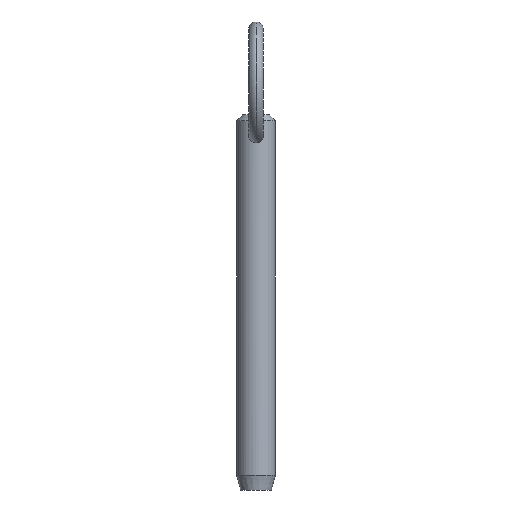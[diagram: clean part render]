
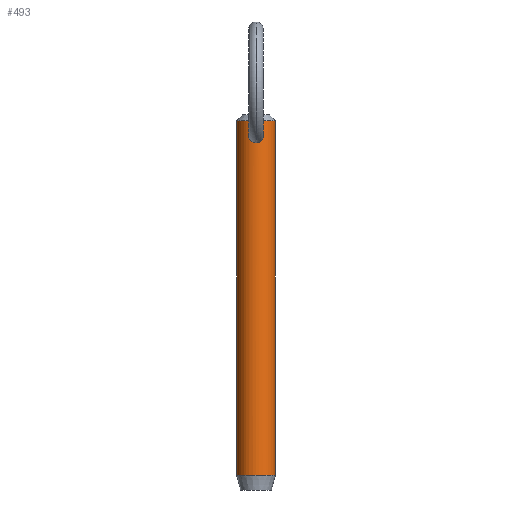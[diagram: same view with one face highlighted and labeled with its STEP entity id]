
A CAD part, front view. The second image highlights one B-rep face of the part: STEP entity #493.
In plain terms, the highlighted cylindrical face has radius 3.965 mm (diameter 7.93 mm), a partial arc.
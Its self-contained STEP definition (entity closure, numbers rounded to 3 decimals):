
#2 = CARTESIAN_POINT ( 'NONE',  ( -3.965, 0., 66.15 ) ) ;
#4 = DIRECTION ( 'NONE',  ( 0., 0., -1. ) ) ;
#15 = EDGE_CURVE ( 'NONE', #290, #384, #385, .T. ) ;
#21 = CARTESIAN_POINT ( 'NONE',  ( -1.379, -3.718, 62.503 ) ) ;
#24 = CARTESIAN_POINT ( 'NONE',  ( 1.346, -3.73, 62.408 ) ) ;
#27 = CARTESIAN_POINT ( 'NONE',  ( 0.693, -3.905, 61.79 ) ) ;
#32 = CARTESIAN_POINT ( 'NONE',  ( 1.434, -3.697, 63.605 ) ) ;
#33 = ORIENTED_EDGE ( 'NONE', *, *, #213, .F. ) ;
#48 = CARTESIAN_POINT ( 'NONE',  ( 0., -3.965, 64.847 ) ) ;
#53 = CARTESIAN_POINT ( 'NONE',  ( -1.508, -3.667, 62.997 ) ) ;
#61 = CARTESIAN_POINT ( 'NONE',  ( 0.404, -3.946, 64.782 ) ) ;
#77 = CARTESIAN_POINT ( 'NONE',  ( -3.965, 0., 61. ) ) ;
#92 = CARTESIAN_POINT ( 'NONE',  ( -1.441, -3.695, 63.608 ) ) ;
#96 = EDGE_LOOP ( 'NONE', ( #491, #208 ) ) ;
#97 = CARTESIAN_POINT ( 'NONE',  ( -0.206, -3.961, 64.834 ) ) ;
#99 = EDGE_CURVE ( 'NONE', #384, #494, #489, .T. ) ;
#100 = FACE_OUTER_BOUND ( 'NONE', #124, .T. ) ;
#102 = CARTESIAN_POINT ( 'NONE',  ( -1.186, -3.786, 64.16 ) ) ;
#108 = CARTESIAN_POINT ( 'NONE',  ( 3.965, 0., 66.15 ) ) ;
#109 = CARTESIAN_POINT ( 'NONE',  ( 1.404, -3.708, 63.701 ) ) ;
#110 = CARTESIAN_POINT ( 'NONE',  ( 1.493, -3.673, 63.304 ) ) ;
#119 = ORIENTED_EDGE ( 'NONE', *, *, #128, .T. ) ;
#120 = DIRECTION ( 'NONE',  ( 1., 0., 0. ) ) ;
#122 = DIRECTION ( 'NONE',  ( 0., 0., 1. ) ) ;
#123 = CARTESIAN_POINT ( 'NONE',  ( -0.41, -3.948, 61.674 ) ) ;
#124 = EDGE_LOOP ( 'NONE', ( #33, #161, #194, #119 ) ) ;
#126 = DIRECTION ( 'NONE',  ( -1., 0., 0. ) ) ;
#128 = EDGE_CURVE ( 'NONE', #494, #488, #451, .T. ) ;
#137 = CARTESIAN_POINT ( 'NONE',  ( -1.488, -3.675, 63.405 ) ) ;
#143 = CARTESIAN_POINT ( 'NONE',  ( -0.102, -3.965, 64.847 ) ) ;
#145 = EDGE_CURVE ( 'NONE', #175, #150, #454, .T. ) ;
#148 = CARTESIAN_POINT ( 'NONE',  ( 1.291, -3.75, 63.983 ) ) ;
#150 = VERTEX_POINT ( 'NONE', #48 ) ;
#152 = CARTESIAN_POINT ( 'NONE',  ( 0.498, -3.935, 64.744 ) ) ;
#161 = ORIENTED_EDGE ( 'NONE', *, *, #15, .T. ) ;
#168 = CARTESIAN_POINT ( 'NONE',  ( -0.205, -3.965, 61.635 ) ) ;
#175 = VERTEX_POINT ( 'NONE', #492 ) ;
#176 = CARTESIAN_POINT ( 'NONE',  ( -0.77, -3.894, 64.6 ) ) ;
#178 = CARTESIAN_POINT ( 'NONE',  ( -1.335, -3.734, 62.41 ) ) ;
#181 = CARTESIAN_POINT ( 'NONE',  ( -1.48, -3.679, 62.789 ) ) ;
#185 = CARTESIAN_POINT ( 'NONE',  ( 3.965, 0., -6.52 ) ) ;
#189 = CARTESIAN_POINT ( 'NONE',  ( 0.102, -3.965, 64.847 ) ) ;
#190 = CARTESIAN_POINT ( 'NONE',  ( 1.447, -3.692, 62.693 ) ) ;
#194 = ORIENTED_EDGE ( 'NONE', *, *, #99, .T. ) ;
#198 = DIRECTION ( 'NONE',  ( 0., 0., -1. ) ) ;
#208 = ORIENTED_EDGE ( 'NONE', *, *, #145, .T. ) ;
#213 = EDGE_CURVE ( 'NONE', #290, #488, #403, .T. ) ;
#226 = CARTESIAN_POINT ( 'NONE',  ( 1.499, -3.671, 62.997 ) ) ;
#238 = CARTESIAN_POINT ( 'NONE',  ( 0., 0., 66.15 ) ) ;
#244 = CARTESIAN_POINT ( 'NONE',  ( -0.788, -3.891, 61.828 ) ) ;
#254 = CARTESIAN_POINT ( 'NONE',  ( 0., -3.965, 64.847 ) ) ;
#264 = CARTESIAN_POINT ( 'NONE',  ( 0.782, -3.888, 61.837 ) ) ;
#285 = EDGE_CURVE ( 'NONE', #150, #175, #407, .T. ) ;
#286 = CARTESIAN_POINT ( 'NONE',  ( 3.965, 0., 61. ) ) ;
#290 = VERTEX_POINT ( 'NONE', #108 ) ;
#292 = CARTESIAN_POINT ( 'NONE',  ( 0., 0., 61. ) ) ;
#295 = CARTESIAN_POINT ( 'NONE',  ( -1.168, -3.79, 62.159 ) ) ;
#297 = DIRECTION ( 'NONE',  ( -1., 0., 0. ) ) ;
#299 = CARTESIAN_POINT ( 'NONE',  ( 0., -3.965, 61.635 ) ) ;
#303 = CARTESIAN_POINT ( 'NONE',  ( 1.503, -3.669, 63.099 ) ) ;
#322 = CARTESIAN_POINT ( 'NONE',  ( -0.498, -3.935, 64.744 ) ) ;
#334 = DIRECTION ( 'NONE',  ( 0., 0., -1. ) ) ;
#335 = CARTESIAN_POINT ( 'NONE',  ( 1.471, -3.682, 62.794 ) ) ;
#336 = CARTESIAN_POINT ( 'NONE',  ( 0.77, -3.894, 64.6 ) ) ;
#340 = CARTESIAN_POINT ( 'NONE',  ( 0., -3.965, 64.847 ) ) ;
#353 = CARTESIAN_POINT ( 'NONE',  ( 0., 0., -6.52 ) ) ;
#355 = FACE_BOUND ( 'NONE', #96, .T. ) ;
#359 = AXIS2_PLACEMENT_3D ( 'NONE', #292, #334, #297 ) ;
#366 = VECTOR ( 'NONE', #400, 1000. ) ;
#372 = CARTESIAN_POINT ( 'NONE',  ( -1.29, -3.75, 63.985 ) ) ;
#374 = CARTESIAN_POINT ( 'NONE',  ( 1.028, -3.83, 62.015 ) ) ;
#379 = CARTESIAN_POINT ( 'NONE',  ( 0.205, -3.965, 61.635 ) ) ;
#381 = CARTESIAN_POINT ( 'NONE',  ( 0.925, -3.858, 64.468 ) ) ;
#384 = VERTEX_POINT ( 'NONE', #2 ) ;
#385 = CIRCLE ( 'NONE', #426, 3.965 ) ;
#392 = CARTESIAN_POINT ( 'NONE',  ( 0., -3.965, 61.635 ) ) ;
#393 = CARTESIAN_POINT ( 'NONE',  ( -0.957, -3.85, 61.941 ) ) ;
#400 = DIRECTION ( 'NONE',  ( 0., 0., -1. ) ) ;
#402 = CARTESIAN_POINT ( 'NONE',  ( -1.229, -3.77, 62.239 ) ) ;
#403 = LINE ( 'NONE', #286, #366 ) ;
#407 = B_SPLINE_CURVE_WITH_KNOTS ( 'NONE', 3,
 ( #340, #189, #413, #61, #152, #336, #381, #462, #148, #109, #32, #415, #110, #303, #226, #335, #190, #24, #502, #374, #417, #264, #27, #458, #379, #299 ),
 .UNSPECIFIED., .F., .F.,
 ( 4, 2, 2, 2, 2, 2, 2, 2, 2, 2, 2, 2, 4 ),
 ( 0.004, 0.005, 0.005, 0.005, 0.006, 0.006, 0.007, 0.007, 0.007, 0.008, 0.008, 0.008, 0.009 ),
 .UNSPECIFIED. ) ;
#408 = CYLINDRICAL_SURFACE ( 'NONE', #359, 3.965 ) ;
#410 = CARTESIAN_POINT ( 'NONE',  ( -0.403, -3.946, 64.782 ) ) ;
#413 = CARTESIAN_POINT ( 'NONE',  ( 0.205, -3.961, 64.834 ) ) ;
#414 = AXIS2_PLACEMENT_3D ( 'NONE', #353, #122, #126 ) ;
#415 = CARTESIAN_POINT ( 'NONE',  ( 1.479, -3.679, 63.407 ) ) ;
#417 = CARTESIAN_POINT ( 'NONE',  ( 0.949, -3.851, 61.949 ) ) ;
#426 = AXIS2_PLACEMENT_3D ( 'NONE', #238, #198, #120 ) ;
#431 = VECTOR ( 'NONE', #4, 1000. ) ;
#445 = CARTESIAN_POINT ( 'NONE',  ( -0.925, -3.858, 64.468 ) ) ;
#451 = CIRCLE ( 'NONE', #414, 3.965 ) ;
#453 = CARTESIAN_POINT ( 'NONE',  ( -3.965, 0., -6.52 ) ) ;
#454 = B_SPLINE_CURVE_WITH_KNOTS ( 'NONE', 3,
 ( #392, #168, #123, #244, #393, #295, #402, #178, #21, #181, #53, #137, #92, #372, #102, #445, #176, #322, #410, #97, #143, #254 ),
 .UNSPECIFIED., .F., .F.,
 ( 4, 2, 2, 2, 2, 2, 2, 2, 2, 2, 4 ),
 ( 0.009, 0.01, 0.01, 0.011, 0.011, 0.012, 0.012, 0.013, 0.013, 0.014, 0.014 ),
 .UNSPECIFIED. ) ;
#458 = CARTESIAN_POINT ( 'NONE',  ( 0.409, -3.948, 61.674 ) ) ;
#462 = CARTESIAN_POINT ( 'NONE',  ( 1.186, -3.786, 64.159 ) ) ;
#488 = VERTEX_POINT ( 'NONE', #185 ) ;
#489 = LINE ( 'NONE', #77, #431 ) ;
#491 = ORIENTED_EDGE ( 'NONE', *, *, #285, .T. ) ;
#492 = CARTESIAN_POINT ( 'NONE',  ( 0., -3.965, 61.635 ) ) ;
#493 = ADVANCED_FACE ( 'NONE', ( #100, #355 ), #408, .T. ) ;
#494 = VERTEX_POINT ( 'NONE', #453 ) ;
#502 = CARTESIAN_POINT ( 'NONE',  ( 1.237, -3.77, 62.231 ) ) ;
